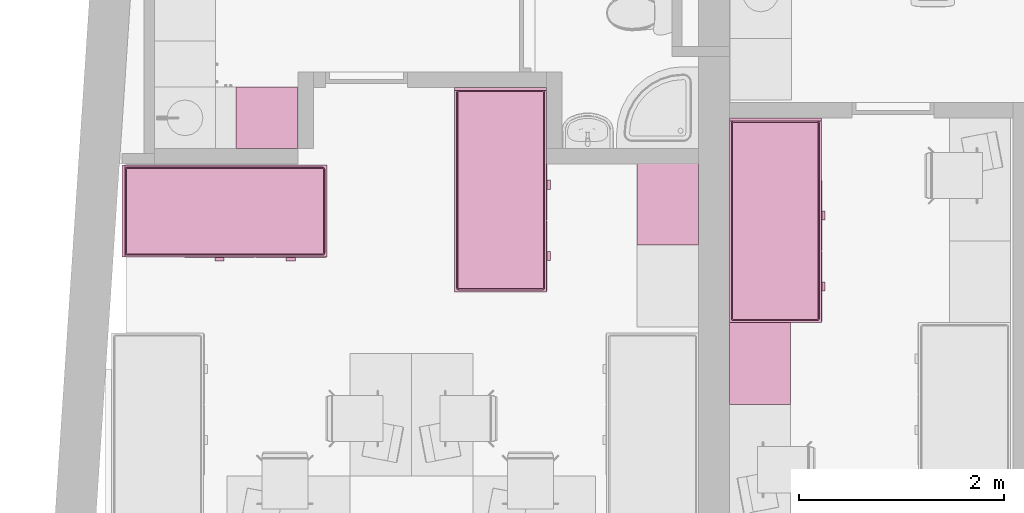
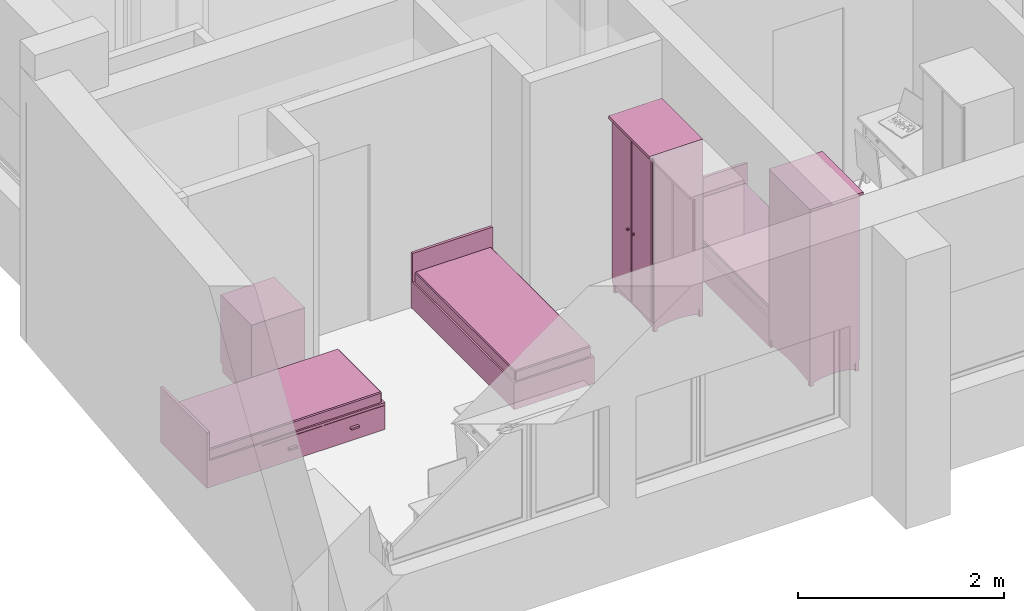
# One storey, part 57 of 165: 6 furnishings.
"""IFC2X3 building model written with IfcOpenShell, lengths in millimetres."""

from ifc_helpers import new_model, entity, si_unit, converted_unit, money_unit, direction, frame, origin_with_axes, place, context, subcontext, project, spatial, open_shell, faceted_brep, surface_model, source, transform, mapped, material, material_list, type_object, element, save


model = new_model("IFC2X3")

# Units and contexts
model_context = context("Model", 3, precision=1e-05, world=origin_with_axes(), true_north=direction((0.0, 1.0)))
body_context = subcontext(model_context, "Body", "Model", "MODEL_VIEW")
ifc_project = project(units=[si_unit("LENGTHUNIT", "METRE", prefix="MILLI"), si_unit("AREAUNIT", "SQUARE_METRE"), si_unit("VOLUMEUNIT", "CUBIC_METRE"), converted_unit("PLANEANGLEUNIT", "DEGREE", entity("IfcPlaneAngleMeasure", 0.0174532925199), si_unit("PLANEANGLEUNIT", "RADIAN"), dimensions=[0, 0, 0, 0, 0, 0, 0]), si_unit("SOLIDANGLEUNIT", "STERADIAN"), money_unit("USD"), converted_unit("TIMEUNIT", "Year", entity("IfcTimeMeasure", 31556926.0), si_unit("TIMEUNIT", "SECOND"), dimensions=[0, 0, 0, 0, 0, 0, 0]), si_unit("MASSUNIT", "GRAM"), si_unit("THERMODYNAMICTEMPERATUREUNIT", "DEGREE_CELSIUS"), si_unit("LUMINOUSINTENSITYUNIT", "LUMEN")], contexts=[model_context])

# Site, building, storey
site_placement = place(None, origin_with_axes())
site = spatial("IfcSite", under=ifc_project, at=site_placement, Name="Site", CompositionType="ELEMENT")
building_placement = place(site_placement, origin_with_axes())
building = spatial("IfcBuilding", under=site, at=building_placement, Name="Building", CompositionType="ELEMENT")
storey_placement = place(building_placement, frame((0.0, 0.0, 6300.0), z_axis=(0.0, 0.0, 1.0), x_axis=(1.0, 0.0, 0.0)))
storey = spatial("IfcBuildingStorey", under=building, at=storey_placement, Name="4KORRUS", CompositionType="ELEMENT", Elevation=6300.0)

# Furnishings
ifc_material = material(Name="Background")
ifc_material_list = material_list([ifc_material])
furnishing_element_type_1 = type_object("IfcFurnishingElementType", Name="Bed 19")
shared_shape_1 = source(origin_with_axes(), body_context, "Body", "Brep", [
    faceted_brep([(900.0, 1970.0, 0.0), (0.0, 1970.0, 0.0), (0.0, 2000.0, 0.0), (900.0, 2000.0, 0.0), (900.0, 1970.0, 660.0), (0.0, 1970.0, 660.0), (0.0, 2000.0, 660.0), (900.0, 2000.0, 660.0)], [[[0, 1, 2, 3]], [[1, 0, 4, 5]], [[2, 1, 5, 6]], [[3, 2, 6, 7]], [[0, 3, 7, 4]], [[5, 4, 7, 6]]]),
    faceted_brep([(900.0, 0.0, 0.0), (0.0, 0.0, 0.0), (0.0, 1970.0, 0.0), (900.0, 1970.0, 0.0), (900.0, 0.0, 320.0), (0.0, 0.0, 320.0), (0.0, 1970.0, 320.0), (900.0, 1970.0, 320.0)], [[[0, 1, 2, 3]], [[1, 0, 4, 5]], [[2, 1, 5, 6]], [[3, 2, 6, 7]], [[0, 3, 7, 4]], [[5, 4, 7, 6]]]),
    faceted_brep([(905.0, 10.0, 30.0), (900.0, 10.0, 30.0), (900.0, 695.0, 30.0), (905.0, 695.0, 30.0), (905.0, 10.0, 290.0), (900.0, 10.0, 290.0), (900.0, 695.0, 290.0), (905.0, 695.0, 290.0)], [[[0, 1, 2, 3]], [[1, 0, 4, 5]], [[2, 1, 5, 6]], [[3, 2, 6, 7]], [[0, 3, 7, 4]], [[5, 4, 7, 6]]]),
    faceted_brep([(935.0, 307.5, 150.0), (905.0, 307.5, 150.0), (905.0, 397.5, 150.0), (935.0, 397.5, 150.0), (935.0, 307.5, 170.0), (905.0, 307.5, 170.0), (905.0, 397.5, 170.0), (935.0, 397.5, 170.0)], [[[0, 1, 2, 3]], [[1, 0, 4, 5]], [[2, 1, 5, 6]], [[3, 2, 6, 7]], [[0, 3, 7, 4]], [[5, 4, 7, 6]]]),
    faceted_brep([(905.0, 705.0, 30.0), (900.0, 705.0, 30.0), (900.0, 1390.0, 30.0), (905.0, 1390.0, 30.0), (905.0, 705.0, 290.0), (900.0, 705.0, 290.0), (900.0, 1390.0, 290.0), (905.0, 1390.0, 290.0)], [[[0, 1, 2, 3]], [[1, 0, 4, 5]], [[2, 1, 5, 6]], [[3, 2, 6, 7]], [[0, 3, 7, 4]], [[5, 4, 7, 6]]]),
    faceted_brep([(935.0, 1002.5, 150.0), (905.0, 1002.5, 150.0), (905.0, 1092.5, 150.0), (935.0, 1092.5, 150.0), (935.0, 1002.5, 170.0), (905.0, 1002.5, 170.0), (905.0, 1092.5, 170.0), (935.0, 1092.5, 170.0)], [[[0, 1, 2, 3]], [[1, 0, 4, 5]], [[2, 1, 5, 6]], [[3, 2, 6, 7]], [[0, 3, 7, 4]], [[5, 4, 7, 6]]]),
    faceted_brep([(20.0, 40.0, 350.0), (20.0, 1950.0, 350.0), (21.522, 1957.654, 350.0), (25.858, 1964.142, 350.0), (32.346, 1968.478, 350.0), (40.0, 1970.0, 350.0), (860.0, 1970.0, 350.0), (867.654, 1968.478, 350.0), (874.142, 1964.142, 350.0), (878.478, 1957.654, 350.0), (880.0, 1950.0, 350.0), (880.0, 40.0, 350.0), (878.478, 32.346, 350.0), (874.142, 25.858, 350.0), (867.654, 21.522, 350.0), (860.0, 20.0, 350.0), (40.0, 20.0, 350.0), (32.346, 21.522, 350.0), (25.858, 25.858, 350.0), (21.522, 32.346, 350.0), (20.0, 40.0, 420.0), (20.0, 1950.0, 420.0), (21.522, 1957.654, 420.0), (25.858, 1964.142, 420.0), (32.346, 1968.478, 420.0), (40.0, 1970.0, 420.0), (860.0, 1970.0, 420.0), (867.654, 1968.478, 420.0), (874.142, 1964.142, 420.0), (878.478, 1957.654, 420.0), (880.0, 1950.0, 420.0), (880.0, 40.0, 420.0), (878.478, 32.346, 420.0), (874.142, 25.858, 420.0), (867.654, 21.522, 420.0), (860.0, 20.0, 420.0), (40.0, 20.0, 420.0), (32.346, 21.522, 420.0), (25.858, 25.858, 420.0), (21.522, 32.346, 420.0), (21.522, 40.15, 427.654), (21.522, 1949.85, 427.654), (22.956, 1957.06, 427.654), (26.955, 1963.045, 427.654), (32.94, 1967.044, 427.654), (40.15, 1968.478, 427.654), (859.85, 1968.478, 427.654), (867.06, 1967.044, 427.654), (873.045, 1963.045, 427.654), (877.044, 1957.06, 427.654), (878.478, 1949.85, 427.654), (878.478, 40.15, 427.654), (877.044, 32.94, 427.654), (873.045, 26.955, 427.654), (867.06, 22.956, 427.654), (859.85, 21.522, 427.654), (40.15, 21.522, 427.654), (32.94, 22.956, 427.654), (26.955, 26.955, 427.654), (22.956, 32.94, 427.654), (32.346, 41.216, 438.478), (32.346, 1948.784, 438.478), (33.152, 1952.836, 438.478), (34.759, 1955.241, 438.478), (37.164, 1956.848, 438.478), (41.216, 1957.654, 438.478), (858.784, 1957.654, 438.478), (862.836, 1956.848, 438.478), (865.241, 1955.241, 438.478), (866.848, 1952.836, 438.478), (867.654, 1948.784, 438.478), (867.654, 41.216, 438.478), (866.848, 37.164, 438.478), (865.241, 34.759, 438.478), (862.836, 33.152, 438.478), (858.784, 32.346, 438.478), (41.216, 32.346, 438.478), (37.164, 33.152, 438.478), (34.759, 34.759, 438.478), (33.152, 37.164, 438.478), (40.0, 41.97, 440.0), (40.0, 1948.03, 440.0), (40.327, 1949.673, 440.0), (40.0, 1950.0, 439.924), (41.97, 1950.0, 440.0), (858.03, 1950.0, 440.0), (859.673, 1949.673, 440.0), (860.0, 1950.0, 439.924), (860.0, 1948.03, 440.0), (860.0, 41.97, 440.0), (859.673, 40.327, 440.0), (860.0, 40.0, 439.924), (858.03, 40.0, 440.0), (41.97, 40.0, 440.0), (40.327, 40.327, 440.0), (40.0, 40.0, 439.924)], [[[0, 1, 2, 3, 4, 5, 6, 7, 8, 9, 10, 11, 12, 13, 14, 15, 16, 17, 18, 19]], [[1, 0, 20, 21]], [[2, 1, 21, 22]], [[3, 2, 22, 23]], [[4, 3, 23, 24]], [[5, 4, 24, 25]], [[6, 5, 25, 26]], [[7, 6, 26, 27]], [[8, 7, 27, 28]], [[9, 8, 28, 29]], [[10, 9, 29, 30]], [[11, 10, 30, 31]], [[12, 11, 31, 32]], [[13, 12, 32, 33]], [[14, 13, 33, 34]], [[15, 14, 34, 35]], [[16, 15, 35, 36]], [[17, 16, 36, 37]], [[18, 17, 37, 38]], [[19, 18, 38, 39]], [[0, 19, 39, 20]], [[21, 20, 40, 41]], [[22, 21, 41, 42]], [[23, 22, 42, 43]], [[24, 23, 43, 44]], [[25, 24, 44, 45]], [[26, 25, 45, 46]], [[27, 26, 46, 47]], [[28, 27, 47, 48]], [[29, 28, 48, 49]], [[30, 29, 49, 50]], [[31, 30, 50, 51]], [[32, 31, 51, 52]], [[33, 32, 52, 53]], [[34, 33, 53, 54]], [[35, 34, 54, 55]], [[36, 35, 55, 56]], [[37, 36, 56, 57]], [[38, 37, 57, 58]], [[39, 38, 58, 59]], [[20, 39, 59, 40]], [[41, 40, 60, 61]], [[42, 41, 61, 62]], [[43, 42, 62, 63]], [[44, 43, 63, 64]], [[45, 44, 64, 65]], [[46, 45, 65, 66]], [[47, 46, 66, 67]], [[48, 47, 67, 68]], [[49, 48, 68, 69]], [[50, 49, 69, 70]], [[51, 50, 70, 71]], [[52, 51, 71, 72]], [[53, 52, 72, 73]], [[54, 53, 73, 74]], [[55, 54, 74, 75]], [[56, 55, 75, 76]], [[57, 56, 76, 77]], [[58, 57, 77, 78]], [[59, 58, 78, 79]], [[40, 59, 79, 60]], [[61, 60, 80, 81]], [[62, 61, 81, 82, 83]], [[63, 62, 83]], [[64, 63, 83]], [[65, 64, 83, 82, 84]], [[66, 65, 84, 85]], [[67, 66, 85, 86, 87]], [[68, 67, 87]], [[69, 68, 87]], [[70, 69, 87, 86, 88]], [[71, 70, 88, 89]], [[72, 71, 89, 90, 91]], [[73, 72, 91]], [[74, 73, 91]], [[75, 74, 91, 90, 92]], [[76, 75, 92, 93]], [[77, 76, 93, 94, 95]], [[78, 77, 95]], [[79, 78, 95]], [[60, 79, 95, 94, 80]], [[81, 80, 94, 93, 92, 90, 89, 88, 86, 85, 84, 82]]]),
    faceted_brep([(20.0, 40.0, 350.0), (21.522, 32.346, 350.0), (25.858, 25.858, 350.0), (32.346, 21.522, 350.0), (40.0, 20.0, 350.0), (860.0, 20.0, 350.0), (867.654, 21.522, 350.0), (874.142, 25.858, 350.0), (878.478, 32.346, 350.0), (880.0, 40.0, 350.0), (880.0, 1950.0, 350.0), (878.478, 1957.654, 350.0), (874.142, 1964.142, 350.0), (867.654, 1968.478, 350.0), (860.0, 1970.0, 350.0), (40.0, 1970.0, 350.0), (32.346, 1968.478, 350.0), (25.858, 1964.142, 350.0), (21.522, 1957.654, 350.0), (20.0, 1950.0, 350.0), (20.0, 40.0, 320.0), (21.522, 32.346, 320.0), (25.858, 25.858, 320.0), (32.346, 21.522, 320.0), (40.0, 20.0, 320.0), (860.0, 20.0, 320.0), (867.654, 21.522, 320.0), (874.142, 25.858, 320.0), (878.478, 32.346, 320.0), (880.0, 40.0, 320.0), (880.0, 1950.0, 320.0), (878.478, 1957.654, 320.0), (874.142, 1964.142, 320.0), (867.654, 1968.478, 320.0), (860.0, 1970.0, 320.0), (40.0, 1970.0, 320.0), (32.346, 1968.478, 320.0), (25.858, 1964.142, 320.0), (21.522, 1957.654, 320.0), (20.0, 1950.0, 320.0)], [[[0, 1, 2, 3, 4, 5, 6, 7, 8, 9, 10, 11, 12, 13, 14, 15, 16, 17, 18, 19]], [[0, 20, 21, 1]], [[1, 21, 22, 2]], [[2, 22, 23, 3]], [[3, 23, 24, 4]], [[4, 24, 25, 5]], [[5, 25, 26, 6]], [[6, 26, 27, 7]], [[7, 27, 28, 8]], [[8, 28, 29, 9]], [[9, 29, 30, 10]], [[10, 30, 31, 11]], [[11, 31, 32, 12]], [[12, 32, 33, 13]], [[13, 33, 34, 14]], [[14, 34, 35, 15]], [[15, 35, 36, 16]], [[16, 36, 37, 17]], [[17, 37, 38, 18]], [[18, 38, 39, 19]], [[19, 39, 20, 0]], [[20, 39, 38, 37, 36, 35, 34, 33, 32, 31, 30, 29, 28, 27, 26, 25, 24, 23, 22, 21]]]),
])
for number, where, z_axis, x_axis, name in (
    (1, (-47990.2967033, -17439.2398994, 0.0), (0.0, 0.0, 1.0), (1.0, 0.0, 0.0), "FU - 013"),
    (2, (-50673.7651372, -17139.5106464, 0.0), (0.0, 0.0, 1.0), (1.0, 0.0, 0.0), "FU - 013"),
):
    element("IfcFurnishingElement", number, at=place(storey_placement, frame(where, z_axis=z_axis, x_axis=x_axis)), inside=storey, type_object=furnishing_element_type_1, material=ifc_material_list, Name=name, context=body_context, shape_type="MappedRepresentation", body=[
        mapped(shared_shape_1, transform((0.0, 0.0, 0.0))),
    ])
furnishing_element_type_2 = type_object("IfcFurnishingElementType", Name="Cupboard 19")
shared_shape_2 = source(origin_with_axes(), body_context, "Body", "Brep", [
    faceted_brep([(780.0, 600.0, 120.0), (780.0, 600.0, 2050.0), (780.0, 580.0, 2050.0), (780.0, 580.0, 120.0), (20.0, 600.0, 120.0), (20.0, 600.0, 2050.0), (20.0, 580.0, 2050.0), (20.0, 580.0, 120.0)], [[[0, 1, 2, 3]], [[4, 5, 1, 0]], [[1, 5, 6, 2]], [[3, 2, 6, 7]], [[0, 3, 7, 4]], [[7, 6, 5, 4]]]),
    faceted_brep([(0.0, 50.0, 100.0), (0.0, 600.0, 100.0), (20.0, 600.0, 100.0), (20.0, 50.0, 100.0), (0.0, 50.0, 2070.0), (0.0, 600.0, 2070.0), (20.0, 600.0, 2070.0), (20.0, 50.0, 2070.0)], [[[0, 1, 2, 3]], [[0, 4, 5, 1]], [[1, 5, 6, 2]], [[2, 6, 7, 3]], [[3, 7, 4, 0]], [[7, 6, 5, 4]]]),
    faceted_brep([(780.0, 50.0, 100.0), (780.0, 600.0, 100.0), (800.0, 600.0, 100.0), (800.0, 50.0, 100.0), (780.0, 50.0, 2070.0), (780.0, 600.0, 2070.0), (800.0, 600.0, 2070.0), (800.0, 50.0, 2070.0)], [[[0, 1, 2, 3]], [[0, 4, 5, 1]], [[1, 5, 6, 2]], [[2, 6, 7, 3]], [[3, 7, 4, 0]], [[7, 6, 5, 4]]]),
    faceted_brep([(20.0, 50.0, 100.0), (20.0, 600.0, 100.0), (780.0, 600.0, 100.0), (780.0, 50.0, 100.0), (20.0, 50.0, 120.0), (20.0, 600.0, 120.0), (780.0, 600.0, 120.0), (780.0, 50.0, 120.0)], [[[0, 1, 2, 3]], [[0, 4, 5, 1]], [[1, 5, 6, 2]], [[2, 6, 7, 3]], [[3, 7, 4, 0]], [[7, 6, 5, 4]]]),
    faceted_brep([(20.0, 50.0, 2050.0), (20.0, 600.0, 2050.0), (780.0, 600.0, 2050.0), (780.0, 50.0, 2050.0), (20.0, 50.0, 2070.0), (20.0, 600.0, 2070.0), (780.0, 600.0, 2070.0), (780.0, 50.0, 2070.0)], [[[0, 1, 2, 3]], [[0, 4, 5, 1]], [[1, 5, 6, 2]], [[2, 6, 7, 3]], [[3, 7, 4, 0]], [[7, 6, 5, 4]]]),
    faceted_brep([(0.0, 600.0, 2070.0), (0.0, 0.0, 2070.0), (0.0, 0.0, 2100.0), (0.0, 600.0, 2100.0), (800.0, 600.0, 2070.0), (800.0, 0.0, 2070.0), (800.0, 0.0, 2100.0), (800.0, 600.0, 2100.0)], [[[0, 1, 2, 3]], [[0, 4, 5, 1]], [[1, 5, 6, 2]], [[3, 2, 6, 7]], [[4, 0, 3, 7]], [[5, 4, 7, 6]]]),
    faceted_brep([(760.0, 590.0, 25.0), (760.0, 570.0, 25.0), (640.962, 570.0, 45.8), (640.962, 590.0, 45.8), (760.0, 590.0, 100.0), (760.0, 570.0, 100.0), (40.0, 570.0, 100.0), (40.0, 570.0, 25.0), (159.038, 570.0, 45.8), (279.23, 570.0, 58.32), (400.0, 570.0, 62.5), (520.77, 570.0, 58.32), (520.77, 590.0, 58.32), (400.0, 590.0, 62.5), (279.23, 590.0, 58.32), (159.038, 590.0, 45.8), (40.0, 590.0, 25.0), (40.0, 590.0, 100.0)], [[[0, 1, 2, 3]], [[4, 5, 1, 0]], [[1, 5, 6, 7, 8, 9, 10, 11, 2]], [[3, 2, 11, 12]], [[0, 3, 12, 13, 14, 15, 16, 17, 4]], [[17, 6, 5, 4]], [[16, 7, 6, 17]], [[15, 8, 7, 16]], [[14, 9, 8, 15]], [[13, 10, 9, 14]], [[12, 11, 10, 13]]]),
    faceted_brep([(760.0, 80.0, 25.0), (760.0, 60.0, 25.0), (640.962, 60.0, 45.8), (640.962, 80.0, 45.8), (760.0, 80.0, 100.0), (760.0, 60.0, 100.0), (40.0, 60.0, 100.0), (40.0, 60.0, 25.0), (159.038, 60.0, 45.8), (279.23, 60.0, 58.32), (400.0, 60.0, 62.5), (520.77, 60.0, 58.32), (520.77, 80.0, 58.32), (400.0, 80.0, 62.5), (279.23, 80.0, 58.32), (159.038, 80.0, 45.8), (40.0, 80.0, 25.0), (40.0, 80.0, 100.0)], [[[0, 1, 2, 3]], [[4, 5, 1, 0]], [[1, 5, 6, 7, 8, 9, 10, 11, 2]], [[3, 2, 11, 12]], [[0, 3, 12, 13, 14, 15, 16, 17, 4]], [[17, 6, 5, 4]], [[16, 7, 6, 17]], [[15, 8, 7, 16]], [[14, 9, 8, 15]], [[13, 10, 9, 14]], [[12, 11, 10, 13]]]),
    faceted_brep([(790.0, 90.0, 25.0), (770.0, 90.0, 25.0), (770.0, 141.266, 38.072), (790.0, 141.266, 38.072), (790.0, 90.0, 100.0), (770.0, 90.0, 100.0), (770.0, 560.0, 100.0), (770.0, 560.0, 25.0), (770.0, 508.734, 38.072), (770.0, 456.752, 47.92), (770.0, 404.257, 54.508), (770.0, 351.453, 57.808), (770.0, 298.547, 57.808), (770.0, 245.743, 54.508), (770.0, 193.248, 47.92), (790.0, 193.248, 47.92), (790.0, 245.743, 54.508), (790.0, 298.547, 57.808), (790.0, 351.453, 57.808), (790.0, 404.257, 54.508), (790.0, 456.752, 47.92), (790.0, 508.734, 38.072), (790.0, 560.0, 25.0), (790.0, 560.0, 100.0)], [[[0, 1, 2, 3]], [[4, 5, 1, 0]], [[1, 5, 6, 7, 8, 9, 10, 11, 12, 13, 14, 2]], [[3, 2, 14, 15]], [[0, 3, 15, 16, 17, 18, 19, 20, 21, 22, 23, 4]], [[23, 6, 5, 4]], [[22, 7, 6, 23]], [[21, 8, 7, 22]], [[20, 9, 8, 21]], [[19, 10, 9, 20]], [[18, 11, 10, 19]], [[17, 12, 11, 18]], [[16, 13, 12, 17]], [[15, 14, 13, 16]]]),
    faceted_brep([(30.0, 90.0, 25.0), (10.0, 90.0, 25.0), (10.0, 141.266, 38.072), (30.0, 141.266, 38.072), (30.0, 90.0, 100.0), (10.0, 90.0, 100.0), (10.0, 560.0, 100.0), (10.0, 560.0, 25.0), (10.0, 508.734, 38.072), (10.0, 456.752, 47.92), (10.0, 404.257, 54.508), (10.0, 351.453, 57.808), (10.0, 298.547, 57.808), (10.0, 245.743, 54.508), (10.0, 193.248, 47.92), (30.0, 193.248, 47.92), (30.0, 245.743, 54.508), (30.0, 298.547, 57.808), (30.0, 351.453, 57.808), (30.0, 404.257, 54.508), (30.0, 456.752, 47.92), (30.0, 508.734, 38.072), (30.0, 560.0, 25.0), (30.0, 560.0, 100.0)], [[[0, 1, 2, 3]], [[4, 5, 1, 0]], [[1, 5, 6, 7, 8, 9, 10, 11, 12, 13, 14, 2]], [[3, 2, 14, 15]], [[0, 3, 15, 16, 17, 18, 19, 20, 21, 22, 23, 4]], [[23, 6, 5, 4]], [[22, 7, 6, 23]], [[21, 8, 7, 22]], [[20, 9, 8, 21]], [[19, 10, 9, 20]], [[18, 11, 10, 19]], [[17, 12, 11, 18]], [[16, 13, 12, 17]], [[15, 14, 13, 16]]]),
    faceted_brep([(760.0, 560.0, 0.0), (760.0, 560.0, 100.0), (760.0, 600.0, 100.0), (760.0, 600.0, 0.0), (800.0, 560.0, 0.0), (800.0, 560.0, 100.0), (800.0, 600.0, 100.0), (800.0, 600.0, 0.0)], [[[0, 1, 2, 3]], [[4, 5, 1, 0]], [[1, 5, 6, 2]], [[3, 2, 6, 7]], [[0, 3, 7, 4]], [[7, 6, 5, 4]]]),
    faceted_brep([(0.0, 560.0, 0.0), (0.0, 560.0, 100.0), (0.0, 600.0, 100.0), (0.0, 600.0, 0.0), (40.0, 560.0, 0.0), (40.0, 560.0, 100.0), (40.0, 600.0, 100.0), (40.0, 600.0, 0.0)], [[[0, 1, 2, 3]], [[4, 5, 1, 0]], [[1, 5, 6, 2]], [[3, 2, 6, 7]], [[0, 3, 7, 4]], [[7, 6, 5, 4]]]),
    faceted_brep([(760.0, 50.0, 0.0), (760.0, 50.0, 100.0), (760.0, 90.0, 100.0), (760.0, 90.0, 0.0), (800.0, 50.0, 0.0), (800.0, 50.0, 100.0), (800.0, 90.0, 100.0), (800.0, 90.0, 0.0)], [[[0, 1, 2, 3]], [[4, 5, 1, 0]], [[1, 5, 6, 2]], [[3, 2, 6, 7]], [[0, 3, 7, 4]], [[7, 6, 5, 4]]]),
    faceted_brep([(0.0, 50.0, 0.0), (0.0, 50.0, 100.0), (0.0, 90.0, 100.0), (0.0, 90.0, 0.0), (40.0, 50.0, 0.0), (40.0, 50.0, 100.0), (40.0, 90.0, 100.0), (40.0, 90.0, 0.0)], [[[0, 1, 2, 3]], [[4, 5, 1, 0]], [[1, 5, 6, 2]], [[3, 2, 6, 7]], [[0, 3, 7, 4]], [[7, 6, 5, 4]]]),
    faceted_brep([(780.0, 580.0, 587.5), (780.0, 580.0, 607.5), (780.0, 50.0, 607.5), (780.0, 50.0, 587.5), (20.0, 580.0, 587.5), (20.0, 580.0, 607.5), (20.0, 50.0, 607.5), (20.0, 50.0, 587.5)], [[[0, 1, 2, 3]], [[4, 5, 1, 0]], [[1, 5, 6, 2]], [[3, 2, 6, 7]], [[0, 3, 7, 4]], [[7, 6, 5, 4]]]),
    faceted_brep([(780.0, 580.0, 1075.0), (780.0, 580.0, 1095.0), (780.0, 50.0, 1095.0), (780.0, 50.0, 1075.0), (20.0, 580.0, 1075.0), (20.0, 580.0, 1095.0), (20.0, 50.0, 1095.0), (20.0, 50.0, 1075.0)], [[[0, 1, 2, 3]], [[4, 5, 1, 0]], [[1, 5, 6, 2]], [[3, 2, 6, 7]], [[0, 3, 7, 4]], [[7, 6, 5, 4]]]),
    faceted_brep([(780.0, 580.0, 1562.5), (780.0, 580.0, 1582.5), (780.0, 50.0, 1582.5), (780.0, 50.0, 1562.5), (20.0, 580.0, 1562.5), (20.0, 580.0, 1582.5), (20.0, 50.0, 1582.5), (20.0, 50.0, 1562.5)], [[[0, 1, 2, 3]], [[4, 5, 1, 0]], [[1, 5, 6, 2]], [[3, 2, 6, 7]], [[0, 3, 7, 4]], [[7, 6, 5, 4]]]),
    faceted_brep([(789.5, 50.0, 110.5), (400.5, 50.0, 110.5), (400.5, 50.0, 2059.5), (789.5, 50.0, 2059.5), (789.5, 40.0, 110.5), (400.5, 40.0, 110.5), (400.5, 40.0, 2059.5), (789.5, 40.0, 2059.5), (779.5, 30.0, 120.5), (410.5, 30.0, 120.5), (410.5, 30.0, 2049.5), (779.5, 30.0, 2049.5)], [[[0, 1, 2, 3]], [[0, 4, 5, 1]], [[1, 5, 6, 2]], [[2, 6, 7, 3]], [[3, 7, 4, 0]], [[4, 8, 9, 5]], [[5, 9, 10, 6]], [[6, 10, 11, 7]], [[7, 11, 8, 4]], [[10, 9, 8, 11]]]),
    faceted_brep([(399.5, 50.0, 110.5), (10.5, 50.0, 110.5), (10.5, 50.0, 2059.5), (399.5, 50.0, 2059.5), (399.5, 40.0, 110.5), (10.5, 40.0, 110.5), (10.5, 40.0, 2059.5), (399.5, 40.0, 2059.5), (389.5, 30.0, 120.5), (20.5, 30.0, 120.5), (20.5, 30.0, 2049.5), (389.5, 30.0, 2049.5)], [[[0, 1, 2, 3]], [[0, 4, 5, 1]], [[1, 5, 6, 2]], [[2, 6, 7, 3]], [[3, 7, 4, 0]], [[4, 8, 9, 5]], [[5, 9, 10, 6]], [[6, 10, 11, 7]], [[7, 11, 8, 4]], [[10, 9, 8, 11]]]),
    faceted_brep([(339.608, 30.0, 954.0), (338.0, 30.0, 960.0), (339.608, 30.0, 966.0), (344.0, 30.0, 970.392), (350.0, 30.0, 972.0), (356.0, 30.0, 970.392), (360.392, 30.0, 966.0), (362.0, 30.0, 960.0), (360.392, 30.0, 954.0), (356.0, 30.0, 949.608), (350.0, 30.0, 948.0), (344.0, 30.0, 949.608), (339.608, 5.0, 954.0), (338.0, 5.0, 960.0), (339.608, 5.0, 966.0), (344.0, 5.0, 970.392), (350.0, 5.0, 972.0), (356.0, 5.0, 970.392), (360.392, 5.0, 966.0), (362.0, 5.0, 960.0), (360.392, 5.0, 954.0), (356.0, 5.0, 949.608), (350.0, 5.0, 948.0), (344.0, 5.0, 949.608)], [[[0, 1, 2, 3, 4, 5, 6, 7, 8, 9, 10, 11]], [[0, 12, 13, 1]], [[1, 13, 14, 2]], [[2, 14, 15, 3]], [[3, 15, 16, 4]], [[4, 16, 17, 5]], [[5, 17, 18, 6]], [[6, 18, 19, 7]], [[7, 19, 20, 8]], [[8, 20, 21, 9]], [[9, 21, 22, 10]], [[10, 22, 23, 11]], [[11, 23, 12, 0]], [[12, 23, 22, 21, 20, 19, 18, 17, 16, 15, 14, 13]]]),
    faceted_brep([(460.392, 30.0, 954.0), (456.0, 30.0, 949.608), (450.0, 30.0, 948.0), (444.0, 30.0, 949.608), (439.608, 30.0, 954.0), (438.0, 30.0, 960.0), (439.608, 30.0, 966.0), (444.0, 30.0, 970.392), (450.0, 30.0, 972.0), (456.0, 30.0, 970.392), (460.392, 30.0, 966.0), (462.0, 30.0, 960.0), (460.392, 5.0, 954.0), (456.0, 5.0, 949.608), (450.0, 5.0, 948.0), (444.0, 5.0, 949.608), (439.608, 5.0, 954.0), (438.0, 5.0, 960.0), (439.608, 5.0, 966.0), (444.0, 5.0, 970.392), (450.0, 5.0, 972.0), (456.0, 5.0, 970.392), (460.392, 5.0, 966.0), (462.0, 5.0, 960.0)], [[[0, 1, 2, 3, 4, 5, 6, 7, 8, 9, 10, 11]], [[1, 0, 12, 13]], [[2, 1, 13, 14]], [[3, 2, 14, 15]], [[4, 3, 15, 16]], [[5, 4, 16, 17]], [[6, 5, 17, 18]], [[7, 6, 18, 19]], [[8, 7, 19, 20]], [[9, 8, 20, 21]], [[10, 9, 21, 22]], [[11, 10, 22, 23]], [[0, 11, 23, 12]], [[12, 23, 22, 21, 20, 19, 18, 17, 16, 15, 14, 13]]]),
])
for number, where, z_axis, x_axis, name in (
    (3, (-48890.2967033, -15880.9451777, 0.0), (0.0, 0.0, 1.0), (0.0, -1.0, 0.0), "FU - 014"),
    (4, (-47390.2967033, -18239.2398994, 0.0), (0.0, 0.0, 1.0), (0.0, 1.0, 0.0), "FU - 014"),
):
    element("IfcFurnishingElement", number, at=place(storey_placement, frame(where, z_axis=z_axis, x_axis=x_axis)), inside=storey, type_object=furnishing_element_type_2, material=ifc_material_list, Name=name, context=body_context, shape_type="MappedRepresentation", body=[
        mapped(shared_shape_2, transform((0.0, 0.0, 0.0))),
    ])
shared_shape_3 = source(origin_with_axes(), body_context, "Body", "Brep", [
    faceted_brep([(-900.0, 1970.0, 0.0), (-900.0, 2000.0, 0.0), (0.0, 2000.0, 0.0), (0.0, 1970.0, 0.0), (-900.0, 1970.0, 660.0), (-900.0, 2000.0, 660.0), (0.0, 2000.0, 660.0), (0.0, 1970.0, 660.0)], [[[0, 1, 2, 3]], [[0, 4, 5, 1]], [[1, 5, 6, 2]], [[2, 6, 7, 3]], [[3, 7, 4, 0]], [[7, 6, 5, 4]]]),
    faceted_brep([(-900.0, 0.0, 0.0), (-900.0, 1970.0, 0.0), (0.0, 1970.0, 0.0), (0.0, 0.0, 0.0), (-900.0, 0.0, 320.0), (-900.0, 1970.0, 320.0), (0.0, 1970.0, 320.0), (0.0, 0.0, 320.0)], [[[0, 1, 2, 3]], [[0, 4, 5, 1]], [[1, 5, 6, 2]], [[2, 6, 7, 3]], [[3, 7, 4, 0]], [[7, 6, 5, 4]]]),
    faceted_brep([(-905.0, 10.0, 30.0), (-905.0, 695.0, 30.0), (-900.0, 695.0, 30.0), (-900.0, 10.0, 30.0), (-905.0, 10.0, 290.0), (-905.0, 695.0, 290.0), (-900.0, 695.0, 290.0), (-900.0, 10.0, 290.0)], [[[0, 1, 2, 3]], [[0, 4, 5, 1]], [[1, 5, 6, 2]], [[2, 6, 7, 3]], [[3, 7, 4, 0]], [[7, 6, 5, 4]]]),
    faceted_brep([(-935.0, 307.5, 150.0), (-935.0, 397.5, 150.0), (-905.0, 397.5, 150.0), (-905.0, 307.5, 150.0), (-935.0, 307.5, 170.0), (-935.0, 397.5, 170.0), (-905.0, 397.5, 170.0), (-905.0, 307.5, 170.0)], [[[0, 1, 2, 3]], [[0, 4, 5, 1]], [[1, 5, 6, 2]], [[2, 6, 7, 3]], [[3, 7, 4, 0]], [[7, 6, 5, 4]]]),
    faceted_brep([(-905.0, 705.0, 30.0), (-905.0, 1390.0, 30.0), (-900.0, 1390.0, 30.0), (-900.0, 705.0, 30.0), (-905.0, 705.0, 290.0), (-905.0, 1390.0, 290.0), (-900.0, 1390.0, 290.0), (-900.0, 705.0, 290.0)], [[[0, 1, 2, 3]], [[0, 4, 5, 1]], [[1, 5, 6, 2]], [[2, 6, 7, 3]], [[3, 7, 4, 0]], [[7, 6, 5, 4]]]),
    faceted_brep([(-935.0, 1002.5, 150.0), (-935.0, 1092.5, 150.0), (-905.0, 1092.5, 150.0), (-905.0, 1002.5, 150.0), (-935.0, 1002.5, 170.0), (-935.0, 1092.5, 170.0), (-905.0, 1092.5, 170.0), (-905.0, 1002.5, 170.0)], [[[0, 1, 2, 3]], [[0, 4, 5, 1]], [[1, 5, 6, 2]], [[2, 6, 7, 3]], [[3, 7, 4, 0]], [[7, 6, 5, 4]]]),
    faceted_brep([(-20.0, 40.0, 350.0), (-21.522, 32.346, 350.0), (-25.858, 25.858, 350.0), (-32.346, 21.522, 350.0), (-40.0, 20.0, 350.0), (-860.0, 20.0, 350.0), (-867.654, 21.522, 350.0), (-874.142, 25.858, 350.0), (-878.478, 32.346, 350.0), (-880.0, 40.0, 350.0), (-880.0, 1950.0, 350.0), (-878.478, 1957.654, 350.0), (-874.142, 1964.142, 350.0), (-867.654, 1968.478, 350.0), (-860.0, 1970.0, 350.0), (-40.0, 1970.0, 350.0), (-32.346, 1968.478, 350.0), (-25.858, 1964.142, 350.0), (-21.522, 1957.654, 350.0), (-20.0, 1950.0, 350.0), (-20.0, 40.0, 420.0), (-21.522, 32.346, 420.0), (-25.858, 25.858, 420.0), (-32.346, 21.522, 420.0), (-40.0, 20.0, 420.0), (-860.0, 20.0, 420.0), (-867.654, 21.522, 420.0), (-874.142, 25.858, 420.0), (-878.478, 32.346, 420.0), (-880.0, 40.0, 420.0), (-880.0, 1950.0, 420.0), (-878.478, 1957.654, 420.0), (-874.142, 1964.142, 420.0), (-867.654, 1968.478, 420.0), (-860.0, 1970.0, 420.0), (-40.0, 1970.0, 420.0), (-32.346, 1968.478, 420.0), (-25.858, 1964.142, 420.0), (-21.522, 1957.654, 420.0), (-20.0, 1950.0, 420.0), (-21.522, 40.15, 427.654), (-22.956, 32.94, 427.654), (-26.955, 26.955, 427.654), (-32.94, 22.956, 427.654), (-40.15, 21.522, 427.654), (-859.85, 21.522, 427.654), (-867.06, 22.956, 427.654), (-873.045, 26.955, 427.654), (-877.044, 32.94, 427.654), (-878.478, 40.15, 427.654), (-878.478, 1949.85, 427.654), (-877.044, 1957.06, 427.654), (-873.045, 1963.045, 427.654), (-867.06, 1967.044, 427.654), (-859.85, 1968.478, 427.654), (-40.15, 1968.478, 427.654), (-32.94, 1967.044, 427.654), (-26.955, 1963.045, 427.654), (-22.956, 1957.06, 427.654), (-21.522, 1949.85, 427.654), (-32.346, 41.216, 438.478), (-33.152, 37.164, 438.478), (-34.759, 34.759, 438.478), (-37.164, 33.152, 438.478), (-41.216, 32.346, 438.478), (-858.784, 32.346, 438.478), (-862.836, 33.152, 438.478), (-865.241, 34.759, 438.478), (-866.848, 37.164, 438.478), (-867.654, 41.216, 438.478), (-867.654, 1948.784, 438.478), (-866.848, 1952.836, 438.478), (-865.241, 1955.241, 438.478), (-862.836, 1956.848, 438.478), (-858.784, 1957.654, 438.478), (-41.216, 1957.654, 438.478), (-37.164, 1956.848, 438.478), (-34.759, 1955.241, 438.478), (-33.152, 1952.836, 438.478), (-32.346, 1948.784, 438.478), (-40.0, 41.97, 440.0), (-40.327, 40.327, 440.0), (-40.0, 40.0, 439.924), (-41.97, 40.0, 440.0), (-858.03, 40.0, 440.0), (-859.673, 40.327, 440.0), (-860.0, 40.0, 439.924), (-860.0, 41.97, 440.0), (-860.0, 1948.03, 440.0), (-859.673, 1949.673, 440.0), (-860.0, 1950.0, 439.924), (-858.03, 1950.0, 440.0), (-41.97, 1950.0, 440.0), (-40.327, 1949.673, 440.0), (-40.0, 1950.0, 439.924), (-40.0, 1948.03, 440.0)], [[[0, 1, 2, 3, 4, 5, 6, 7, 8, 9, 10, 11, 12, 13, 14, 15, 16, 17, 18, 19]], [[0, 20, 21, 1]], [[1, 21, 22, 2]], [[2, 22, 23, 3]], [[3, 23, 24, 4]], [[4, 24, 25, 5]], [[5, 25, 26, 6]], [[6, 26, 27, 7]], [[7, 27, 28, 8]], [[8, 28, 29, 9]], [[9, 29, 30, 10]], [[10, 30, 31, 11]], [[11, 31, 32, 12]], [[12, 32, 33, 13]], [[13, 33, 34, 14]], [[14, 34, 35, 15]], [[15, 35, 36, 16]], [[16, 36, 37, 17]], [[17, 37, 38, 18]], [[18, 38, 39, 19]], [[19, 39, 20, 0]], [[20, 40, 41, 21]], [[21, 41, 42, 22]], [[22, 42, 43, 23]], [[23, 43, 44, 24]], [[24, 44, 45, 25]], [[25, 45, 46, 26]], [[26, 46, 47, 27]], [[27, 47, 48, 28]], [[28, 48, 49, 29]], [[29, 49, 50, 30]], [[30, 50, 51, 31]], [[31, 51, 52, 32]], [[32, 52, 53, 33]], [[33, 53, 54, 34]], [[34, 54, 55, 35]], [[35, 55, 56, 36]], [[36, 56, 57, 37]], [[37, 57, 58, 38]], [[38, 58, 59, 39]], [[39, 59, 40, 20]], [[40, 60, 61, 41]], [[41, 61, 62, 42]], [[42, 62, 63, 43]], [[43, 63, 64, 44]], [[44, 64, 65, 45]], [[45, 65, 66, 46]], [[46, 66, 67, 47]], [[47, 67, 68, 48]], [[48, 68, 69, 49]], [[49, 69, 70, 50]], [[50, 70, 71, 51]], [[51, 71, 72, 52]], [[52, 72, 73, 53]], [[53, 73, 74, 54]], [[54, 74, 75, 55]], [[55, 75, 76, 56]], [[56, 76, 77, 57]], [[57, 77, 78, 58]], [[58, 78, 79, 59]], [[59, 79, 60, 40]], [[60, 80, 81, 82, 61]], [[61, 82, 62]], [[62, 82, 63]], [[63, 82, 81, 83, 64]], [[64, 83, 84, 65]], [[65, 84, 85, 86, 66]], [[66, 86, 67]], [[67, 86, 68]], [[68, 86, 85, 87, 69]], [[69, 87, 88, 70]], [[70, 88, 89, 90, 71]], [[71, 90, 72]], [[72, 90, 73]], [[73, 90, 89, 91, 74]], [[74, 91, 92, 75]], [[75, 92, 93, 94, 76]], [[76, 94, 77]], [[77, 94, 78]], [[78, 94, 93, 95, 79]], [[79, 95, 80, 60]], [[95, 93, 92, 91, 89, 88, 87, 85, 84, 83, 81, 80]]]),
    faceted_brep([(-20.0, 40.0, 350.0), (-20.0, 1950.0, 350.0), (-21.522, 1957.654, 350.0), (-25.858, 1964.142, 350.0), (-32.346, 1968.478, 350.0), (-40.0, 1970.0, 350.0), (-860.0, 1970.0, 350.0), (-867.654, 1968.478, 350.0), (-874.142, 1964.142, 350.0), (-878.478, 1957.654, 350.0), (-880.0, 1950.0, 350.0), (-880.0, 40.0, 350.0), (-878.478, 32.346, 350.0), (-874.142, 25.858, 350.0), (-867.654, 21.522, 350.0), (-860.0, 20.0, 350.0), (-40.0, 20.0, 350.0), (-32.346, 21.522, 350.0), (-25.858, 25.858, 350.0), (-21.522, 32.346, 350.0), (-20.0, 40.0, 320.0), (-20.0, 1950.0, 320.0), (-21.522, 1957.654, 320.0), (-25.858, 1964.142, 320.0), (-32.346, 1968.478, 320.0), (-40.0, 1970.0, 320.0), (-860.0, 1970.0, 320.0), (-867.654, 1968.478, 320.0), (-874.142, 1964.142, 320.0), (-878.478, 1957.654, 320.0), (-880.0, 1950.0, 320.0), (-880.0, 40.0, 320.0), (-878.478, 32.346, 320.0), (-874.142, 25.858, 320.0), (-867.654, 21.522, 320.0), (-860.0, 20.0, 320.0), (-40.0, 20.0, 320.0), (-32.346, 21.522, 320.0), (-25.858, 25.858, 320.0), (-21.522, 32.346, 320.0)], [[[0, 1, 2, 3, 4, 5, 6, 7, 8, 9, 10, 11, 12, 13, 14, 15, 16, 17, 18, 19]], [[1, 0, 20, 21]], [[2, 1, 21, 22]], [[3, 2, 22, 23]], [[4, 3, 23, 24]], [[5, 4, 24, 25]], [[6, 5, 25, 26]], [[7, 6, 26, 27]], [[8, 7, 27, 28]], [[9, 8, 28, 29]], [[10, 9, 29, 30]], [[11, 10, 30, 31]], [[12, 11, 31, 32]], [[13, 12, 32, 33]], [[14, 13, 33, 34]], [[15, 14, 34, 35]], [[16, 15, 35, 36]], [[17, 16, 36, 37]], [[18, 17, 37, 38]], [[19, 18, 38, 39]], [[0, 19, 39, 20]], [[20, 39, 38, 37, 36, 35, 34, 33, 32, 31, 30, 29, 28, 27, 26, 25, 24, 23, 22, 21]]]),
])
furnishing_1_placement = place(storey_placement, frame((-51922.7529145, -15899.5718195, 0.0), z_axis=(0.0, 0.0, 1.0), x_axis=(0.0, 1.0, 0.0)))
element("IfcFurnishingElement", 5, at=furnishing_1_placement, inside=storey, type_object=furnishing_element_type_1, material=ifc_material_list, Name="FU - 013", context=body_context, shape_type="MappedRepresentation", body=[
    mapped(shared_shape_3, transform((0.0, 0.0, 0.0))),
])
furnishing_element_type_3 = type_object("IfcFurnishingElementType", Name="Refrigerator 19")
shared_shape_4 = source(origin_with_axes(), body_context, "Body", "SurfaceModel", [
    faceted_brep([(0.0, 0.0, 875.0), (0.0, 0.0, 900.0), (-600.0, 0.0, 900.0), (-600.0, 0.0, 875.0), (0.0, 600.0, 875.0), (0.0, 600.0, 900.0), (-600.0, 600.0, 900.0), (-600.0, 600.0, 875.0)], [[[0, 1, 2, 3]], [[4, 5, 1, 0]], [[1, 5, 6, 2]], [[3, 2, 6, 7]], [[0, 3, 7, 4]], [[7, 6, 5, 4]]]),
    faceted_brep([(0.0, 65.0, 0.0), (0.0, 65.0, 875.0), (-600.0, 65.0, 875.0), (-600.0, 65.0, 0.0), (0.0, 600.0, 0.0), (0.0, 600.0, 875.0), (-600.0, 600.0, 875.0), (-600.0, 600.0, 0.0)], [[[0, 1, 2, 3]], [[4, 5, 1, 0]], [[1, 5, 6, 2]], [[3, 2, 6, 7]], [[0, 3, 7, 4]], [[7, 6, 5, 4]]]),
    faceted_brep([(0.0, 30.0, 0.0), (0.0, 30.0, 90.0), (-600.0, 30.0, 90.0), (-600.0, 30.0, 0.0), (0.0, 60.0, 0.0), (0.0, 60.0, 90.0), (-600.0, 60.0, 90.0), (-600.0, 60.0, 0.0)], [[[0, 1, 2, 3]], [[4, 5, 1, 0]], [[1, 5, 6, 2]], [[3, 2, 6, 7]], [[0, 3, 7, 4]], [[7, 6, 5, 4]]]),
    faceted_brep([(0.0, 60.0, 90.0), (0.0, 0.0, 90.0), (-600.0, 0.0, 90.0), (-600.0, 60.0, 90.0), (0.0, 60.0, 874.5), (0.0, 0.0, 874.5), (-600.0, 0.0, 874.5), (-600.0, 60.0, 874.5)], [[[0, 1, 2, 3]], [[4, 5, 1, 0]], [[1, 5, 6, 2]], [[3, 2, 6, 7]], [[0, 3, 7, 4]], [[7, 6, 5, 4]]]),
    surface_model("IfcShellBasedSurfaceModel", [(-600.0, -30.0, 624.5), (-600.0, 0.0, 624.5), (-600.0, 0.0, 824.5), (-600.0, -30.0, 824.5)], [open_shell([[[0, 1, 2, 3]]])]),
    surface_model("IfcShellBasedSurfaceModel", [(-600.0, -30.0, 624.5), (-570.0, -30.0, 624.5), (-570.0, -30.0, 824.5), (-600.0, -30.0, 824.5)], [open_shell([[[0, 1, 2, 3]]])]),
])
furnishing_2_placement = place(storey_placement, frame((-52808.4921105, -15138.0262806, 0.0), z_axis=(0.0, 0.0, 1.0), x_axis=(-1.0, 0.0, 0.0)))
element("IfcFurnishingElement", 6, at=furnishing_2_placement, inside=storey, type_object=furnishing_element_type_3, material=ifc_material_list, Name="FU - 007", context=body_context, shape_type="MappedRepresentation", body=[
    mapped(shared_shape_4, transform((0.0, 0.0, 0.0))),
])

save(model, "model.ifc")
